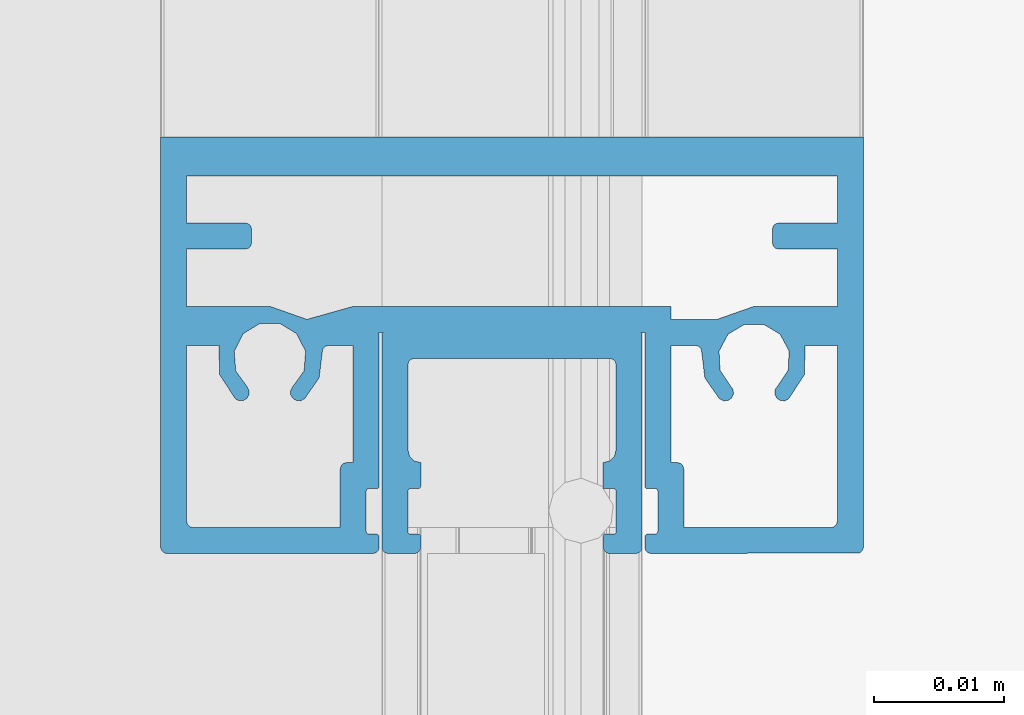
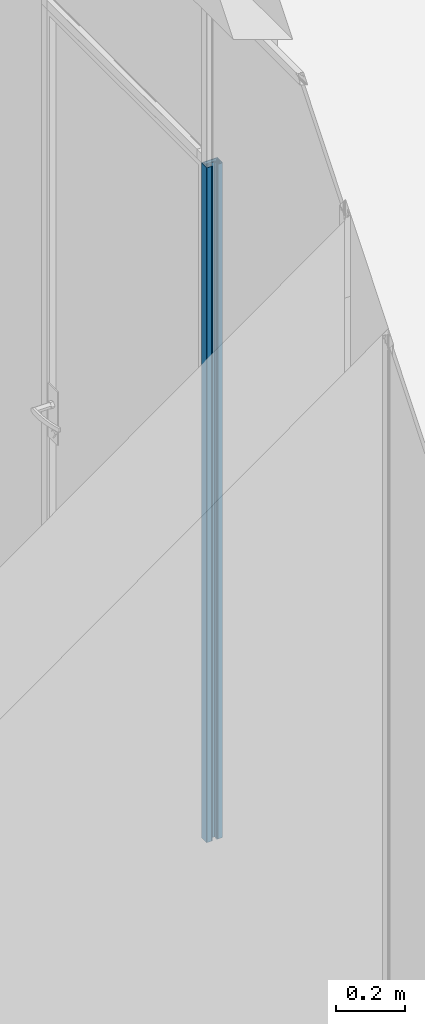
# One storey, part 60 of 387: 1 building element part, 2 elements without a shape of their own.
"""IFC2X3 building model written with IfcOpenShell, lengths in millimetres."""

from ifc_helpers import new_model, entity, si_unit, converted_unit, derived_unit, money_unit, direction, frame, origin_with_axes, place, context, subcontext, project, spatial, faceted_brep, source, transform, mapped, material, type_object, element, aggregate, save


model = new_model("IFC2X3")

# Units and contexts
model_context = context("Model", 3, precision=0.01, world=origin_with_axes(), true_north=direction((0.0, 1.0)))
body_context = subcontext(model_context, "Body", "Model", "MODEL_VIEW")
ifc_project = project(units=[si_unit("LENGTHUNIT", "METRE", prefix="MILLI"), si_unit("AREAUNIT", "SQUARE_METRE"), si_unit("VOLUMEUNIT", "CUBIC_METRE"), converted_unit("PLANEANGLEUNIT", "DEGREE", entity("IfcPlaneAngleMeasure", 0.0174532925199), si_unit("PLANEANGLEUNIT", "RADIAN"), dimensions=[0, 0, 0, 0, 0, 0, 0]), si_unit("SOLIDANGLEUNIT", "STERADIAN"), money_unit("EUR"), converted_unit("TIMEUNIT", "Year", entity("IfcTimeMeasure", 31556926.0), si_unit("TIMEUNIT", "SECOND"), dimensions=[0, 0, 1, 0, 0, 0, 0]), si_unit("MASSUNIT", "GRAM", prefix="KILO"), si_unit("THERMODYNAMICTEMPERATUREUNIT", "DEGREE_CELSIUS"), si_unit("LUMINOUSINTENSITYUNIT", "LUMEN"), si_unit("ENERGYUNIT", "JOULE", prefix="MEGA"), derived_unit("THERMALCONDUCTANCEUNIT", [(si_unit("POWERUNIT", "WATT"), 1), (si_unit("LENGTHUNIT", "METRE"), -1), (si_unit("THERMODYNAMICTEMPERATUREUNIT", "KELVIN"), -1)]), derived_unit("SPECIFICHEATCAPACITYUNIT", [(si_unit("ENERGYUNIT", "JOULE"), 1), (si_unit("MASSUNIT", "GRAM", prefix="KILO"), -1), (si_unit("THERMODYNAMICTEMPERATUREUNIT", "KELVIN"), -1)]), derived_unit("MASSDENSITYUNIT", [(si_unit("MASSUNIT", "GRAM", prefix="KILO"), 1), (si_unit("VOLUMEUNIT", "CUBIC_METRE"), -1)])], contexts=[model_context])

# Site, building, storey
site_placement = place(None, origin_with_axes())
site = spatial("IfcSite", under=ifc_project, at=site_placement, Name="Puškini 31, Narva", CompositionType="ELEMENT")
building_placement = place(site_placement, origin_with_axes())
building = spatial("IfcBuilding", under=site, at=building_placement, Name="Narva Riigigümnaasium", CompositionType="ELEMENT")
storey_placement = place(building_placement, frame((0.0, 0.0, 2640.0), z_axis=(0.0, 0.0, 1.0), x_axis=(1.0, 0.0, 0.0)))
storey = spatial("IfcBuildingStorey", under=building, at=storey_placement, Name="2.korrus +2.64", CompositionType="ELEMENT", Elevation=2640.0)

# Curtain wall, member, building element part
curtain_wall_type = type_object("IfcCurtainWallType", Name="Curtain Wall Type", PredefinedType="NOTDEFINED")
curtain_wall_placement = place(storey_placement, frame((28390.0000002, 176724.161139, -5.42380846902e-05), z_axis=(0.0, 0.0, 1.0), x_axis=(1.0, 0.0, 0.0)))
curtain_wall = element("IfcCurtainWall", 1, at=curtain_wall_placement, inside=storey, type_object=curtain_wall_type, Name="G-SKLF-12")
member_type = type_object("IfcMemberType", Name="32 x 27", PredefinedType="MULLION")
member_placement = place(curtain_wall_placement, frame((4.75708361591e-09, -308.189107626, 0.0), z_axis=(0.0, 0.0, 1.0), x_axis=(0.0, 1.0, 0.0)))
member = element("IfcMember", 2, at=member_placement, type_object=member_type, Name="G-SKLF-12-raam", ObjectType="MULLION")
aggregate(curtain_wall, [member])
ifc_material = material(Name="ET-04_Alumiinium")
shared_shape = source(origin_with_axes(), body_context, "Body", "Brep", [
    faceted_brep([(31.933012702, 26.75, 0.0), (31.933012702, 26.75, 2400.00001337), (32.0, 10.7, 2400.00001337), (32.0, 10.7, 0.0), (31.7500000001, 26.9330127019, 0.0), (31.7500000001, 26.9330127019, 2400.00001337), (31.5, 27.0, 2400.00001337), (0.0, 27.0, 2400.00001337), (0.0, -27.0, 2400.00001337), (31.5, -27.0, 2400.00001337), (31.75, -26.9330127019, 2400.00001337), (31.9330127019, -26.75, 2400.00001337), (32.0, -26.5, 2400.00001337), (32.0, -10.7, 2400.00001337), (31.9330127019, -10.45, 2400.00001337), (31.75, -10.2669872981, 2400.00001337), (31.5, -10.2, 2400.00001337), (30.7, -10.2, 2400.00001337), (30.6, -10.2267949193, 2400.00001337), (30.5267949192, -10.3, 2400.00001337), (30.5, -10.4, 2400.00001337), (30.5, -11.0, 2400.00001337), (30.4732050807, -11.1, 2400.00001337), (30.4, -11.1732050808, 2400.00001337), (30.3, -11.2, 2400.00001337), (27.2, -11.2, 2400.00001337), (27.1, -11.1732050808, 2400.00001337), (27.0267949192, -11.1, 2400.00001337), (27.0, -11.0, 2400.00001337), (27.0, -10.4000000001, 2400.00001337), (26.9732050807, -10.3000000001, 2400.00001337), (26.8999999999, -10.2267949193, 2400.00001337), (26.7999999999, -10.2000000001, 2400.00001337), (15.0, -10.2, 2400.00001337), (15.0, -9.80000000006, 2400.00001337), (15.0, 9.79999999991, 2400.00001337), (15.0, 10.2, 2400.00001337), (26.8, 10.2, 2400.00001337), (26.9, 10.2267949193, 2400.00001337), (26.9732050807, 10.3, 2400.00001337), (27.0, 10.4, 2400.00001337), (27.0, 11.0, 2400.00001337), (27.0267949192, 11.1, 2400.00001337), (27.1, 11.1732050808, 2400.00001337), (27.2, 11.2, 2400.00001337), (30.3, 11.2, 2400.00001337), (30.4, 11.1732050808, 2400.00001337), (30.4732050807, 11.1, 2400.00001337), (30.5, 11.0, 2400.00001337), (30.5, 10.4, 2400.00001337), (30.5267949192, 10.3, 2400.00001337), (30.6, 10.2267949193, 2400.00001337), (30.7, 10.2, 2400.00001337), (31.5, 10.2, 2400.00001337), (31.75, 10.2669872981, 2400.00001337), (31.9330127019, 10.45, 2400.00001337), (30.0, -13.2, 2400.00001337), (29.9999999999, -24.5, 2400.00001337), (29.9330127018, -24.75, 2400.00001337), (29.7499999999, -24.9330127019, 2400.00001337), (29.4999999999, -25.0, 2400.00001337), (16.0, -25.0, 2400.00001337), (16.0, -22.5115214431, 2400.00001337), (18.2324976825, -22.4735254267, 2400.00001337), (20.1055788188, -21.2581832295, 2400.00001337), (20.2508755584, -20.9704117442, 2400.00001337), (20.2400388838, -20.6482221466, 2400.00001337), (20.0757343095, -20.3708639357, 2400.00001337), (19.7983760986, -20.2065593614, 2400.00001337), (19.476186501, -20.1957226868, 2400.00001337), (19.1884150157, -20.3410194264, 2400.00001337), (17.9594363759, -21.2262649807, 2400.00001337), (16.4491363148, -21.3404661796, 2400.00001337), (15.101017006, -20.6500876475, 2400.00001337), (14.3109559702, -19.3578602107, 2400.00001337), (14.3109559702, -17.8432486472, 2400.00001337), (15.101017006, -16.5510212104, 2400.00001337), (16.4491363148, -15.8606426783, 2400.00001337), (17.9594363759, -15.9748438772, 2400.00001337), (19.1884150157, -16.8600894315, 2400.00001337), (19.4768504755, -17.0081043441, 2400.00001337), (19.8009019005, -16.9984036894, 2400.00001337), (20.0799669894, -16.8334003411, 2400.00001337), (20.2446330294, -16.5541360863, 2400.00001337), (20.2539421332, -16.2300731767, 2400.00001337), (20.1055788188, -15.9418167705, 2400.00001337), (18.5025683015, -14.8194517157, 2400.00001337), (16.5604395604, -14.5796977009, 2400.00001337), (16.2857576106, -14.5351385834, 2400.00001337), (16.0774356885, -14.3506455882, 2400.00001337), (16.0, -14.0833640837, 2400.00001337), (16.0, -12.2, 2400.00001337), (25.0, -12.2, 2400.00001337), (25.0, -12.7, 2400.00001337), (25.0669872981, -12.95, 2400.00001337), (25.25, -13.1330127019, 2400.00001337), (25.5, -13.2, 2400.00001337), (30.0, 13.2, 2400.00001337), (25.5, 13.2, 2400.00001337), (25.25, 13.1330127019, 2400.00001337), (25.0669872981, 12.95, 2400.00001337), (25.0, 12.7, 2400.00001337), (25.0, 12.2, 2400.00001337), (16.0, 12.2, 2400.00001337), (16.0, 14.0833640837, 2400.00001337), (16.0774356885, 14.3506455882, 2400.00001337), (16.2857576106, 14.5351385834, 2400.00001337), (16.5604395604, 14.5796977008, 2400.00001337), (18.5025683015, 14.8194517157, 2400.00001337), (20.1055788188, 15.9418167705, 2400.00001337), (20.2591463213, 16.2452813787, 2400.00001337), (20.2384633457, 16.5847603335, 2400.00001337), (20.0491908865, 16.8673371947, 2400.00001337), (19.7431334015, 17.0156698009, 2400.00001337), (19.4040597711, 16.9891590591, 2400.00001337), (19.1247754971, 16.7950610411, 2400.00001337), (17.9010883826, 15.9799828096, 2400.00001337), (16.4324884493, 15.9094355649, 2400.00001337), (15.1363081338, 16.6034667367, 2400.00001337), (14.3808833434, 17.8648533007, 2400.00001337), (14.3808833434, 19.3351466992, 2400.00001337), (15.1363081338, 20.5965332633, 2400.00001337), (16.4324884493, 21.290564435, 2400.00001337), (17.9010883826, 21.2200171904, 2400.00001337), (19.1247754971, 20.4049389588, 2400.00001337), (19.4040367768, 20.2113893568, 2400.00001337), (19.7428001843, 20.185166, 2400.00001337), (20.0485211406, 20.3334326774, 2400.00001337), (20.2376817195, 20.6156853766, 2400.00001337), (20.2586063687, 20.9548173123, 2400.00001337), (20.1055788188, 21.2581832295, 2400.00001337), (18.2324976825, 22.4735254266, 2400.00001337), (16.0, 22.5115214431, 2400.00001337), (16.0, 25.0, 2400.00001337), (29.5, 25.0, 2400.00001337), (29.75, 24.9330127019, 2400.00001337), (29.9330127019, 24.75, 2400.00001337), (30.0, 24.5, 2400.00001337), (14.0, -15.7539501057, 2400.00001337), (13.8901098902, -16.0667028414, 2400.00001337), (13.0, -18.6, 2400.00001337), (13.0, -25.0, 2400.00001337), (8.59999999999, -25.0, 2400.00001337), (8.59999999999, -20.5, 2400.00001337), (8.53301270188, -20.25, 2400.00001337), (8.34999999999, -20.0669872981, 2400.00001337), (8.09999999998, -20.0, 2400.00001337), (7.1, -20.0000000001, 2400.00001337), (6.85, -20.0669872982, 2400.00001337), (6.66698729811, -20.25, 2400.00001337), (6.6, -20.5, 2400.00001337), (6.6, -25.0, 2400.00001337), (3.0, -25.0, 2400.00001337), (3.0, 25.0, 2400.00001337), (6.6, 25.0, 2400.00001337), (6.6, 20.5, 2400.00001337), (6.6669872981, 20.25, 2400.00001337), (6.85, 20.0669872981, 2400.00001337), (7.09999999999, 20.0, 2400.00001337), (8.09999999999, 20.0, 2400.00001337), (8.34999999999, 20.0669872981, 2400.00001337), (8.53301270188, 20.25, 2400.00001337), (8.59999999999, 20.5, 2400.00001337), (8.59999999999, 25.0, 2400.00001337), (13.0, 25.0, 2400.00001337), (13.0, 18.6, 2400.00001337), (13.8901098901, 16.0667028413, 2400.00001337), (14.0, 15.7539501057, 2400.00001337), (14.0, 12.2, 2400.00001337), (13.0, 12.2, 2400.00001337), (13.0, -12.2, 2400.00001337), (31.9330127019, 10.45, 0.0), (31.75, 10.2669872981, 0.0), (31.5, 10.2, 0.0), (30.7, 10.2, 0.0), (30.6, 10.2267949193, 0.0), (30.5267949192, 10.3, 0.0), (30.5, 10.4, 0.0), (30.5, 11.0, 0.0), (30.4732050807, 11.1, 0.0), (30.4, 11.1732050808, 0.0), (30.3, 11.2, 0.0), (27.2, 11.2, 0.0), (27.1, 11.1732050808, 0.0), (27.0267949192, 11.1, 0.0), (27.0, 11.0, 0.0), (27.0, 10.4, 0.0), (26.9732050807, 10.3, 0.0), (26.9, 10.2267949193, 0.0), (26.8, 10.2, 0.0), (15.0, 10.2, 0.0), (15.0, 9.79999999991, 0.0), (15.0, -9.80000000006, 0.0), (15.0, -10.2, 0.0), (26.7999999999, -10.2000000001, 0.0), (26.8999999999, -10.2267949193, 0.0), (26.9732050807, -10.3000000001, 0.0), (27.0, -10.4000000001, 0.0), (27.0, -11.0, 0.0), (27.0267949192, -11.1, 0.0), (27.1, -11.1732050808, 0.0), (27.2, -11.2, 0.0), (30.3, -11.2, 0.0), (30.4, -11.1732050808, 0.0), (30.4732050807, -11.1, 0.0), (30.5, -11.0, 0.0), (30.5, -10.4, 0.0), (30.5267949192, -10.3, 0.0), (30.6, -10.2267949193, 0.0), (30.7, -10.2, 0.0), (31.5, -10.2, 0.0), (31.75, -10.2669872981, 0.0), (31.9330127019, -10.45, 0.0), (32.0, -10.7, 0.0), (32.0, -26.5, 0.0), (31.9330127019, -26.75, 0.0), (31.75, -26.9330127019, 0.0), (31.5, -27.0, 0.0), (0.0, -27.0, 0.0), (0.0, 27.0, 0.0), (31.5, 27.0, 0.0), (30.0, -13.2, 0.0), (25.5, -13.2, 0.0), (25.25, -13.1330127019, 0.0), (25.0669872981, -12.95, 0.0), (25.0, -12.7, 0.0), (25.0, -12.2, 0.0), (16.0, -12.2, 0.0), (16.0, -14.0833640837, 0.0), (16.0774356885, -14.3506455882, 0.0), (16.2857576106, -14.5351385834, 0.0), (16.5604395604, -14.5796977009, 0.0), (18.5025683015, -14.8194517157, 0.0), (20.1055788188, -15.9418167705, 0.0), (20.2539421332, -16.2300731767, 0.0), (20.2446330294, -16.5541360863, 0.0), (20.0799669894, -16.8334003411, 0.0), (19.8009019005, -16.9984036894, 0.0), (19.4768504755, -17.0081043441, 0.0), (19.1884150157, -16.8600894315, 0.0), (17.9594363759, -15.9748438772, 0.0), (16.4491363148, -15.8606426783, 0.0), (15.101017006, -16.5510212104, 0.0), (14.3109559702, -17.8432486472, 0.0), (14.3109559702, -19.3578602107, 0.0), (15.101017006, -20.6500876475, 0.0), (16.4491363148, -21.3404661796, 0.0), (17.9594363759, -21.2262649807, 0.0), (19.1884150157, -20.3410194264, 0.0), (19.476186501, -20.1957226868, 0.0), (19.7983760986, -20.2065593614, 0.0), (20.0757343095, -20.3708639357, 0.0), (20.2400388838, -20.6482221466, 0.0), (20.2508755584, -20.9704117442, 0.0), (20.1055788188, -21.2581832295, 0.0), (18.2324976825, -22.4735254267, 0.0), (16.0, -22.5115214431, 0.0), (16.0, -25.0, 0.0), (29.4999999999, -25.0, 0.0), (29.7499999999, -24.9330127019, 0.0), (29.9330127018, -24.75, 0.0), (29.9999999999, -24.5, 0.0), (30.0, 13.2, 0.0), (30.0, 24.5, 0.0), (29.9330127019, 24.75, 0.0), (29.75, 24.9330127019, 0.0), (29.5, 25.0, 0.0), (16.0, 25.0, 0.0), (16.0, 22.5115214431, 0.0), (18.2324976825, 22.4735254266, 0.0), (20.1055788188, 21.2581832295, 0.0), (20.2586063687, 20.9548173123, 0.0), (20.2376817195, 20.6156853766, 0.0), (20.0485211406, 20.3334326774, 0.0), (19.7428001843, 20.185166, 0.0), (19.4040367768, 20.2113893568, 0.0), (19.1247754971, 20.4049389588, 0.0), (17.9010883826, 21.2200171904, 0.0), (16.4324884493, 21.290564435, 0.0), (15.1363081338, 20.5965332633, 0.0), (14.3808833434, 19.3351466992, 0.0), (14.3808833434, 17.8648533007, 0.0), (15.1363081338, 16.6034667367, 0.0), (16.4324884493, 15.9094355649, 0.0), (17.9010883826, 15.9799828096, 0.0), (19.1247754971, 16.7950610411, 0.0), (19.4040597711, 16.9891590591, 0.0), (19.7431334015, 17.0156698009, 0.0), (20.0491908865, 16.8673371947, 0.0), (20.2384633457, 16.5847603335, 0.0), (20.2591463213, 16.2452813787, 0.0), (20.1055788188, 15.9418167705, 0.0), (18.5025683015, 14.8194517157, 0.0), (16.5604395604, 14.5796977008, 0.0), (16.2857576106, 14.5351385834, 0.0), (16.0774356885, 14.3506455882, 0.0), (16.0, 14.0833640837, 0.0), (16.0, 12.2, 0.0), (25.0, 12.2, 0.0), (25.0, 12.7, 0.0), (25.0669872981, 12.95, 0.0), (25.25, 13.1330127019, 0.0), (25.5, 13.2, 0.0), (14.0, -15.7539501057, 0.0), (13.0, -12.2, 0.0), (13.0, 12.2, 0.0), (14.0, 12.2, 0.0), (14.0, 15.7539501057, 0.0), (13.8901098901, 16.0667028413, 0.0), (13.0, 18.6, 0.0), (13.0, 25.0, 0.0), (8.59999999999, 25.0, 0.0), (8.59999999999, 20.5, 0.0), (8.53301270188, 20.25, 0.0), (8.34999999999, 20.0669872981, 0.0), (8.09999999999, 20.0, 0.0), (7.09999999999, 20.0, 0.0), (6.85, 20.0669872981, 0.0), (6.6669872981, 20.25, 0.0), (6.6, 20.5, 0.0), (6.6, 25.0, 0.0), (3.0, 25.0, 0.0), (3.0, -25.0, 0.0), (6.6, -25.0, 0.0), (6.6, -20.5, 0.0), (6.66698729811, -20.25, 0.0), (6.85, -20.0669872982, 0.0), (7.1, -20.0000000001, 0.0), (8.09999999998, -20.0, 0.0), (8.34999999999, -20.0669872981, 0.0), (8.53301270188, -20.25, 0.0), (8.59999999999, -20.5, 0.0), (8.59999999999, -25.0, 0.0), (13.0, -25.0, 0.0), (13.0, -18.6, 0.0), (13.8901098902, -16.0667028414, 0.0)], [[[0, 1, 2, 3]], [[4, 5, 1, 0]], [[1, 5, 6, 7, 8, 9, 10, 11, 12, 13, 14, 15, 16, 17, 18, 19, 20, 21, 22, 23, 24, 25, 26, 27, 28, 29, 30, 31, 32, 33, 34, 35, 36, 37, 38, 39, 40, 41, 42, 43, 44, 45, 46, 47, 48, 49, 50, 51, 52, 53, 54, 55, 2], [56, 57, 58, 59, 60, 61, 62, 63, 64, 65, 66, 67, 68, 69, 70, 71, 72, 73, 74, 75, 76, 77, 78, 79, 80, 81, 82, 83, 84, 85, 86, 87, 88, 89, 90, 91, 92, 93, 94, 95, 96], [97, 98, 99, 100, 101, 102, 103, 104, 105, 106, 107, 108, 109, 110, 111, 112, 113, 114, 115, 116, 117, 118, 119, 120, 121, 122, 123, 124, 125, 126, 127, 128, 129, 130, 131, 132, 133, 134, 135, 136, 137], [138, 139, 140, 141, 142, 143, 144, 145, 146, 147, 148, 149, 150, 151, 152, 153, 154, 155, 156, 157, 158, 159, 160, 161, 162, 163, 164, 165, 166, 167, 168, 169, 170]], [[3, 2, 55, 171]], [[0, 3, 171, 172, 173, 174, 175, 176, 177, 178, 179, 180, 181, 182, 183, 184, 185, 186, 187, 188, 189, 190, 191, 192, 193, 194, 195, 196, 197, 198, 199, 200, 201, 202, 203, 204, 205, 206, 207, 208, 209, 210, 211, 212, 213, 214, 215, 216, 217, 218, 219, 220, 4], [221, 222, 223, 224, 225, 226, 227, 228, 229, 230, 231, 232, 233, 234, 235, 236, 237, 238, 239, 240, 241, 242, 243, 244, 245, 246, 247, 248, 249, 250, 251, 252, 253, 254, 255, 256, 257, 258, 259, 260, 261], [262, 263, 264, 265, 266, 267, 268, 269, 270, 271, 272, 273, 274, 275, 276, 277, 278, 279, 280, 281, 282, 283, 284, 285, 286, 287, 288, 289, 290, 291, 292, 293, 294, 295, 296, 297, 298, 299, 300, 301, 302], [303, 304, 305, 306, 307, 308, 309, 310, 311, 312, 313, 314, 315, 316, 317, 318, 319, 320, 321, 322, 323, 324, 325, 326, 327, 328, 329, 330, 331, 332, 333, 334, 335]], [[220, 6, 5, 4]], [[219, 7, 6, 220]], [[218, 8, 7, 219]], [[217, 9, 8, 218]], [[216, 10, 9, 217]], [[215, 11, 10, 216]], [[214, 12, 11, 215]], [[213, 13, 12, 214]], [[212, 14, 13, 213]], [[211, 15, 14, 212]], [[210, 16, 15, 211]], [[209, 17, 16, 210]], [[208, 18, 17, 209]], [[207, 19, 18, 208]], [[206, 20, 19, 207]], [[205, 21, 20, 206]], [[204, 22, 21, 205]], [[203, 23, 22, 204]], [[202, 24, 23, 203]], [[201, 25, 24, 202]], [[200, 26, 25, 201]], [[199, 27, 26, 200]], [[198, 28, 27, 199]], [[197, 29, 28, 198]], [[196, 30, 29, 197]], [[195, 31, 30, 196]], [[194, 32, 31, 195]], [[193, 33, 32, 194]], [[192, 34, 33, 193]], [[191, 35, 34, 192]], [[190, 36, 35, 191]], [[189, 37, 36, 190]], [[188, 38, 37, 189]], [[187, 39, 38, 188]], [[186, 40, 39, 187]], [[185, 41, 40, 186]], [[184, 42, 41, 185]], [[183, 43, 42, 184]], [[182, 44, 43, 183]], [[181, 45, 44, 182]], [[180, 46, 45, 181]], [[179, 47, 46, 180]], [[178, 48, 47, 179]], [[177, 49, 48, 178]], [[176, 50, 49, 177]], [[175, 51, 50, 176]], [[174, 52, 51, 175]], [[173, 53, 52, 174]], [[172, 54, 53, 173]], [[171, 55, 54, 172]], [[261, 57, 56, 221]], [[260, 58, 57, 261]], [[259, 59, 58, 260]], [[258, 60, 59, 259]], [[257, 61, 60, 258]], [[256, 62, 61, 257]], [[255, 63, 62, 256]], [[254, 64, 63, 255]], [[253, 65, 64, 254]], [[252, 66, 65, 253]], [[251, 67, 66, 252]], [[250, 68, 67, 251]], [[249, 69, 68, 250]], [[248, 70, 69, 249]], [[247, 71, 70, 248]], [[246, 72, 71, 247]], [[245, 73, 72, 246]], [[244, 74, 73, 245]], [[243, 75, 74, 244]], [[242, 76, 75, 243]], [[241, 77, 76, 242]], [[240, 78, 77, 241]], [[239, 79, 78, 240]], [[238, 80, 79, 239]], [[237, 81, 80, 238]], [[236, 82, 81, 237]], [[235, 83, 82, 236]], [[234, 84, 83, 235]], [[233, 85, 84, 234]], [[232, 86, 85, 233]], [[231, 87, 86, 232]], [[230, 88, 87, 231]], [[229, 89, 88, 230]], [[228, 90, 89, 229]], [[227, 91, 90, 228]], [[226, 92, 91, 227]], [[225, 93, 92, 226]], [[224, 94, 93, 225]], [[223, 95, 94, 224]], [[222, 96, 95, 223]], [[221, 56, 96, 222]], [[302, 98, 97, 262]], [[301, 99, 98, 302]], [[300, 100, 99, 301]], [[299, 101, 100, 300]], [[298, 102, 101, 299]], [[297, 103, 102, 298]], [[296, 104, 103, 297]], [[295, 105, 104, 296]], [[294, 106, 105, 295]], [[293, 107, 106, 294]], [[292, 108, 107, 293]], [[291, 109, 108, 292]], [[290, 110, 109, 291]], [[289, 111, 110, 290]], [[288, 112, 111, 289]], [[287, 113, 112, 288]], [[286, 114, 113, 287]], [[285, 115, 114, 286]], [[284, 116, 115, 285]], [[283, 117, 116, 284]], [[282, 118, 117, 283]], [[281, 119, 118, 282]], [[280, 120, 119, 281]], [[279, 121, 120, 280]], [[278, 122, 121, 279]], [[277, 123, 122, 278]], [[276, 124, 123, 277]], [[275, 125, 124, 276]], [[274, 126, 125, 275]], [[273, 127, 126, 274]], [[272, 128, 127, 273]], [[271, 129, 128, 272]], [[270, 130, 129, 271]], [[269, 131, 130, 270]], [[268, 132, 131, 269]], [[267, 133, 132, 268]], [[266, 134, 133, 267]], [[265, 135, 134, 266]], [[264, 136, 135, 265]], [[263, 137, 136, 264]], [[262, 97, 137, 263]], [[335, 139, 138, 303]], [[334, 140, 139, 335]], [[333, 141, 140, 334]], [[332, 142, 141, 333]], [[331, 143, 142, 332]], [[330, 144, 143, 331]], [[329, 145, 144, 330]], [[328, 146, 145, 329]], [[327, 147, 146, 328]], [[326, 148, 147, 327]], [[325, 149, 148, 326]], [[324, 150, 149, 325]], [[323, 151, 150, 324]], [[322, 152, 151, 323]], [[321, 153, 152, 322]], [[320, 154, 153, 321]], [[319, 155, 154, 320]], [[318, 156, 155, 319]], [[317, 157, 156, 318]], [[316, 158, 157, 317]], [[315, 159, 158, 316]], [[314, 160, 159, 315]], [[313, 161, 160, 314]], [[312, 162, 161, 313]], [[311, 163, 162, 312]], [[310, 164, 163, 311]], [[309, 165, 164, 310]], [[308, 166, 165, 309]], [[307, 167, 166, 308]], [[306, 168, 167, 307]], [[305, 169, 168, 306]], [[304, 170, 169, 305]], [[303, 138, 170, 304]]]),
    faceted_brep([(15.0, -9.80000000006, 0.0), (15.0, -9.80000000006, 2400.00001337), (15.0267949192, 9.89999999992, 2400.00001337), (15.0267949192, 9.89999999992, 0.0), (15.0267949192, -9.90000000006, 0.0), (15.0267949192, -9.90000000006, 2400.00001337), (15.1, -9.97320508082, 2400.00001337), (15.2, -10.0000000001, 2400.00001337), (31.5, -10.0000000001, 2400.00001337), (31.75, -9.93301270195, 2400.00001337), (31.9330127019, -9.75000000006, 2400.00001337), (32.0, -9.50000000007, 2400.00001337), (32.0, -7.50000000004, 2400.00001337), (31.9330127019, -7.25000000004, 2400.00001337), (31.75, -7.06698729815, 2400.00001337), (31.5, -7.00000000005, 2400.00001337), (30.7, -7.00000000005, 2400.00001337), (30.6, -7.02679491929, 2400.00001337), (30.5267949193, -7.10000000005, 2400.00001337), (30.5, -7.20000000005, 2400.00001337), (30.5, -7.80000000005, 2400.00001337), (30.4732050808, -7.90000000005, 2400.00001337), (30.4, -7.97320508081, 2400.00001337), (30.3, -8.00000000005, 2400.00001337), (27.2, -8.00000000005, 2400.00001337), (27.1, -7.97320508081, 2400.00001337), (27.0267949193, -7.90000000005, 2400.00001337), (27.0, -7.80000000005, 2400.00001337), (27.0, -7.20000000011, 2400.00001337), (26.9732050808, -7.10000000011, 2400.00001337), (26.9, -7.02679491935, 2400.00001337), (26.8, -7.0000000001, 2400.00001337), (25.0092559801, -6.99999999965, 2400.00001337), (24.8752813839, -7.49999999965, 2400.00001337), (24.5092559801, -7.86602540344, 2400.00001337), (24.0092559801, -7.99999999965, 2400.00001337), (17.5, -7.99999999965, 2400.00001337), (17.25, -7.93301270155, 2400.00001337), (17.0669872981, -7.74999999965, 2400.00001337), (17.0, -7.49999999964, 2400.00001337), (17.0, 7.4999999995, 2400.00001337), (17.0669872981, 7.74999999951, 2400.00001337), (17.25, 7.9330127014, 2400.00001337), (17.5, 7.99999999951, 2400.00001337), (24.0092559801, 7.99999999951, 2400.00001337), (24.5092559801, 7.8660254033, 2400.00001337), (24.8752813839, 7.49999999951, 2400.00001337), (25.0092559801, 6.99999999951, 2400.00001337), (26.8568724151, 6.99999999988, 2400.00001337), (27.0, 6.99999999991, 2400.00001337), (27.0, 7.14458302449, 2400.00001337), (27.0, 7.79999999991, 2400.00001337), (27.0267949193, 7.89999999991, 2400.00001337), (27.1, 7.97320508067, 2400.00001337), (27.2, 7.99999999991, 2400.00001337), (30.3, 7.99999999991, 2400.00001337), (30.4, 7.97320508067, 2400.00001337), (30.4732050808, 7.89999999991, 2400.00001337), (30.5, 7.7999999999, 2400.00001337), (30.5, 7.19999999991, 2400.00001337), (30.5267949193, 7.09999999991, 2400.00001337), (30.6, 7.02679491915, 2400.00001337), (30.7, 6.99999999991, 2400.00001337), (31.5, 6.99999999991, 2400.00001337), (31.75, 7.06698729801, 2400.00001337), (31.9330127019, 7.24999999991, 2400.00001337), (32.0, 7.49999999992, 2400.00001337), (32.0, 9.49999999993, 2400.00001337), (31.9330127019, 9.74999999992, 2400.00001337), (31.75, 9.93301270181, 2400.00001337), (31.5, 9.99999999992, 2400.00001337), (15.2, 9.99999999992, 2400.00001337), (15.1, 9.97320508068, 2400.00001337), (15.1, 9.97320508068, 0.0), (15.2, 9.99999999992, 0.0), (31.5, 9.99999999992, 0.0), (31.75, 9.93301270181, 0.0), (31.9330127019, 9.74999999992, 0.0), (32.0, 9.49999999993, 0.0), (32.0, 7.49999999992, 0.0), (31.9330127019, 7.24999999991, 0.0), (31.75, 7.06698729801, 0.0), (31.5, 6.99999999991, 0.0), (30.7, 6.99999999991, 0.0), (30.6, 7.02679491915, 0.0), (30.5267949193, 7.09999999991, 0.0), (30.5, 7.19999999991, 0.0), (30.5, 7.7999999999, 0.0), (30.4732050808, 7.89999999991, 0.0), (30.4, 7.97320508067, 0.0), (30.3, 7.99999999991, 0.0), (27.2, 7.99999999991, 0.0), (27.1, 7.97320508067, 0.0), (27.0267949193, 7.89999999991, 0.0), (27.0, 7.79999999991, 0.0), (27.0, 7.14458302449, 0.0), (27.0, 6.99999999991, 0.0), (26.8568724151, 6.99999999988, 0.0), (25.0092559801, 6.99999999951, 0.0), (24.8752813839, 7.49999999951, 0.0), (24.5092559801, 7.8660254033, 0.0), (24.0092559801, 7.99999999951, 0.0), (17.5, 7.99999999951, 0.0), (17.25, 7.9330127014, 0.0), (17.0669872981, 7.74999999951, 0.0), (17.0, 7.4999999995, 0.0), (17.0, -7.49999999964, 0.0), (17.0669872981, -7.74999999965, 0.0), (17.25, -7.93301270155, 0.0), (17.5, -7.99999999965, 0.0), (24.0092559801, -7.99999999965, 0.0), (24.5092559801, -7.86602540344, 0.0), (24.8752813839, -7.49999999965, 0.0), (25.0092559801, -6.99999999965, 0.0), (26.8, -7.0000000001, 0.0), (26.9, -7.02679491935, 0.0), (26.9732050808, -7.10000000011, 0.0), (27.0, -7.20000000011, 0.0), (27.0, -7.80000000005, 0.0), (27.0267949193, -7.90000000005, 0.0), (27.1, -7.97320508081, 0.0), (27.2, -8.00000000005, 0.0), (30.3, -8.00000000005, 0.0), (30.4, -7.97320508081, 0.0), (30.4732050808, -7.90000000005, 0.0), (30.5, -7.80000000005, 0.0), (30.5, -7.20000000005, 0.0), (30.5267949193, -7.10000000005, 0.0), (30.6, -7.02679491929, 0.0), (30.7, -7.00000000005, 0.0), (31.5, -7.00000000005, 0.0), (31.75, -7.06698729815, 0.0), (31.9330127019, -7.25000000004, 0.0), (32.0, -7.50000000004, 0.0), (32.0, -9.50000000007, 0.0), (31.9330127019, -9.75000000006, 0.0), (31.75, -9.93301270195, 0.0), (31.5, -10.0000000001, 0.0), (15.2, -10.0000000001, 0.0), (15.1, -9.97320508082, 0.0)], [[[0, 1, 2, 3]], [[4, 5, 1, 0]], [[1, 5, 6, 7, 8, 9, 10, 11, 12, 13, 14, 15, 16, 17, 18, 19, 20, 21, 22, 23, 24, 25, 26, 27, 28, 29, 30, 31, 32, 33, 34, 35, 36, 37, 38, 39, 40, 41, 42, 43, 44, 45, 46, 47, 48, 49, 50, 51, 52, 53, 54, 55, 56, 57, 58, 59, 60, 61, 62, 63, 64, 65, 66, 67, 68, 69, 70, 71, 72, 2]], [[3, 2, 72, 73]], [[0, 3, 73, 74, 75, 76, 77, 78, 79, 80, 81, 82, 83, 84, 85, 86, 87, 88, 89, 90, 91, 92, 93, 94, 95, 96, 97, 98, 99, 100, 101, 102, 103, 104, 105, 106, 107, 108, 109, 110, 111, 112, 113, 114, 115, 116, 117, 118, 119, 120, 121, 122, 123, 124, 125, 126, 127, 128, 129, 130, 131, 132, 133, 134, 135, 136, 137, 138, 139, 4]], [[139, 6, 5, 4]], [[138, 7, 6, 139]], [[137, 8, 7, 138]], [[136, 9, 8, 137]], [[135, 10, 9, 136]], [[134, 11, 10, 135]], [[133, 12, 11, 134]], [[132, 13, 12, 133]], [[131, 14, 13, 132]], [[130, 15, 14, 131]], [[129, 16, 15, 130]], [[128, 17, 16, 129]], [[127, 18, 17, 128]], [[126, 19, 18, 127]], [[125, 20, 19, 126]], [[124, 21, 20, 125]], [[123, 22, 21, 124]], [[122, 23, 22, 123]], [[121, 24, 23, 122]], [[120, 25, 24, 121]], [[119, 26, 25, 120]], [[118, 27, 26, 119]], [[117, 28, 27, 118]], [[116, 29, 28, 117]], [[115, 30, 29, 116]], [[114, 31, 30, 115]], [[113, 32, 31, 114]], [[112, 33, 32, 113]], [[111, 34, 33, 112]], [[110, 35, 34, 111]], [[109, 36, 35, 110]], [[108, 37, 36, 109]], [[107, 38, 37, 108]], [[106, 39, 38, 107]], [[105, 40, 39, 106]], [[104, 41, 40, 105]], [[103, 42, 41, 104]], [[102, 43, 42, 103]], [[101, 44, 43, 102]], [[100, 45, 44, 101]], [[99, 46, 45, 100]], [[98, 47, 46, 99]], [[97, 48, 47, 98]], [[96, 49, 48, 97]], [[95, 50, 49, 96]], [[94, 51, 50, 95]], [[93, 52, 51, 94]], [[92, 53, 52, 93]], [[91, 54, 53, 92]], [[90, 55, 54, 91]], [[89, 56, 55, 90]], [[88, 57, 56, 89]], [[87, 58, 57, 88]], [[86, 59, 58, 87]], [[85, 60, 59, 86]], [[84, 61, 60, 85]], [[83, 62, 61, 84]], [[82, 63, 62, 83]], [[81, 64, 63, 82]], [[80, 65, 64, 81]], [[79, 66, 65, 80]], [[78, 67, 66, 79]], [[77, 68, 67, 78]], [[76, 69, 68, 77]], [[75, 70, 69, 76]], [[74, 71, 70, 75]], [[73, 72, 71, 74]]]),
])
building_element_part_placement = place(member_placement, origin_with_axes())
building_element_part = element("IfcBuildingElementPart", 3, at=building_element_part_placement, material=ifc_material, Name="ET-04_Alumiinium", context=body_context, shape_type="MappedRepresentation", body=[
    mapped(shared_shape, transform((0.0, 0.0, 0.0), x_axis=(-1.0, 0.0, 0.0), y_axis=(0.0, -1.0, 0.0), z_axis=(0.0, 0.0, 1.0))),
])
aggregate(member, [building_element_part])

save(model, "model.ifc")
